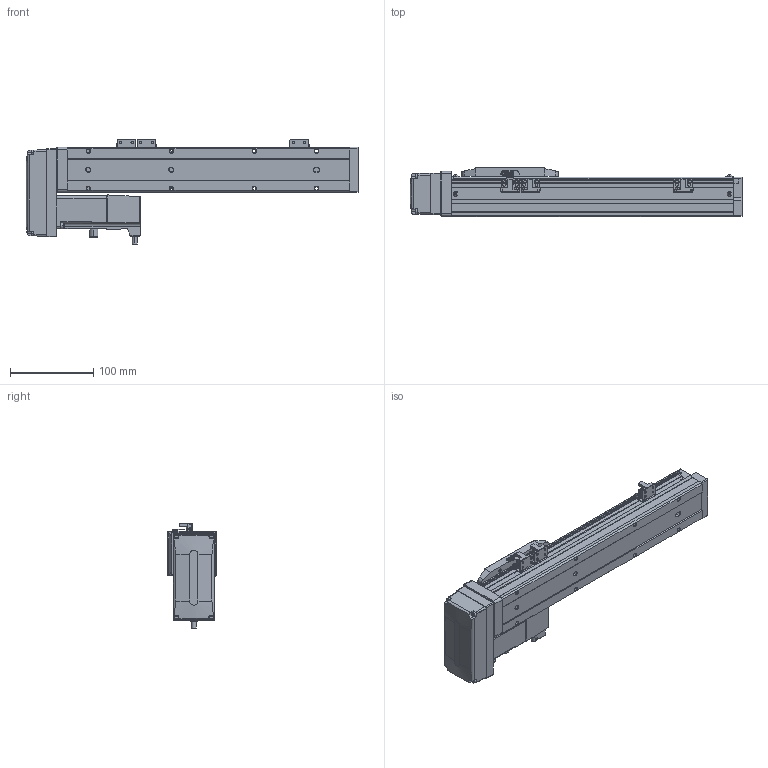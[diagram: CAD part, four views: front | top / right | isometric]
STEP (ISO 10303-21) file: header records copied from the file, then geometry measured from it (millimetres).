
FILE_DESCRIPTION (( 'STEP AP203' ), '1' );
FILE_NAME ('CTH5-L10-S200-BR-C10(¼ò).STEP', '2023-02-04T02:29:58', ( '' ), ( '' ), 'SwSTEP 2.0', 'SolidWorks 2018', '' );
FILE_SCHEMA (( 'CONFIG_CONTROL_DESIGN' ));
Length unit declared in the file: millimetre
Products named in the file (22): CTH5菁釱-L340; CTH5耜晚蹟隊; PM-Y45; CTH5覜茼え; M3｡｣; CTH5耜蚾欶; CTH5耜蚾蟀諉啣(潠); CTH100W假蚾啣; CTH5賑怢; CTH5綴耜啣; T10-p1; 内六角圆柱头螺钉M3-2; CTH5ヶ耜啣(潠); 嫖萇羲壽郪磁1; CTH嫖萇羲壽假蚾啣; 葩璃 蚾饜极13^CTH8-L10-S50-BM-C40(潠)1; CTH5-L10-S200-BR-C10(潠); hex nuts, style 1-grades ab gb_GB_FASTENER_NUT_SNAB1 M3-N; 葩璃 蚾饜极16^CTH5-L10-S200-BR-C10(潠); CTH5-BL-T10_body5; 100W萇儂; CTH5耜晚蹟隊-1
Assembly tree (37 placements, depth 4):
  CTH5-L10-S200-BR-C10(潠)
    CTH5綴耜啣
    CTH5賑怢
    CTH5ヶ耜啣(潠)
    CTH5菁釱-L340
    CTH5耜晚蹟隊  x2
    嫖萇羲壽郪磁1  x2
      CTH嫖萇羲壽假蚾啣
      PM-Y45
      M3｡｣
      内六角圆柱头螺钉M3-2
      hex nuts, style 1-grades ab gb_GB_FASTENER_NUT_SNAB1 M3-N
    CTH5覜茼え
    葩璃 蚾饜极13^CTH8-L10-S50-BM-C40(潠)1
      CTH嫖萇羲壽假蚾啣
      PM-Y45
      内六角圆柱头螺钉M3-2  x2
      M3｡｣  x2
      hex nuts, style 1-grades ab gb_GB_FASTENER_NUT_SNAB1 M3-N  x2
    CTH5耜晚蹟隊-1  x4
    葩璃 蚾饜极16^CTH5-L10-S200-BR-C10(潠)
      CTH5耜蚾蟀諉啣(潠)
      CTH5耜蚾欶
        CTH5-BL-T10_body5
      100W萇儂
        T10-p1
      CTH100W假蚾啣
Bounding box: 400 x 60 x 126.31 mm (x, y, z)
Volume: 1145231.6 mm3; surface area: 186555.4 mm2
Topology: 39 solids, 39 shells, 1571 faces, 3931 edges, 2544 vertices
Faces by surface type: plane 890, cylinder 456, cone 167, torus 40, bspline 18
Entity records: 36265 total; most frequent: CARTESIAN_POINT 6712, DIRECTION 5695, ORIENTED_EDGE 5486, EDGE_CURVE 2743, AXIS2_PLACEMENT_3D 1946, VECTOR 1803, LINE 1803, VERTEX_POINT 1772
